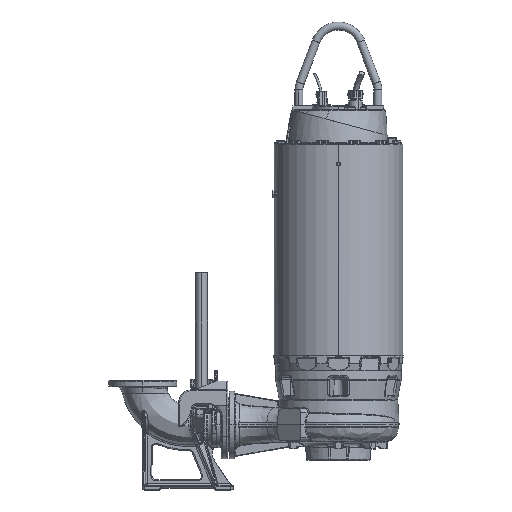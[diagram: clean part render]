
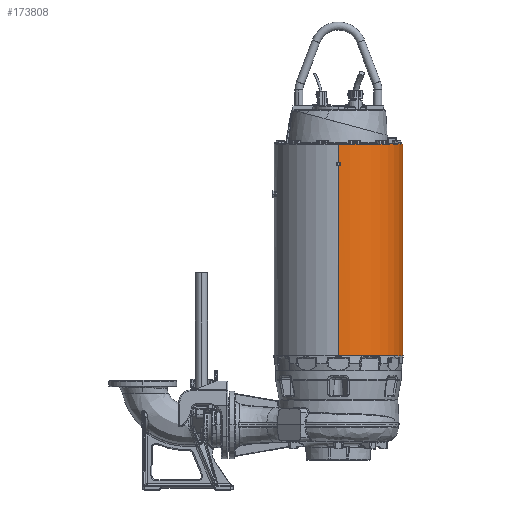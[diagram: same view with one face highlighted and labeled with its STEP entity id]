
A CAD part, top view. The second image highlights one B-rep face of the part: STEP entity #173808.
In plain terms, the highlighted cylindrical face has radius 322 mm (diameter 644 mm), a partial arc.
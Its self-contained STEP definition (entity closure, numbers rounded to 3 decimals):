
#1253 = ORIENTED_EDGE ( 'NONE', *, *, #125993, .F. ) ;
#2137 = ORIENTED_EDGE ( 'NONE', *, *, #202003, .F. ) ;
#5485 = VECTOR ( 'NONE', #193907, 1000. ) ;
#7507 = CARTESIAN_POINT ( 'NONE',  ( 0., 950.97, -322. ) ) ;
#10070 = DIRECTION ( 'NONE',  ( 0., -1., 0. ) ) ;
#11205 = AXIS2_PLACEMENT_3D ( 'NONE', #100670, #123631, #78576 ) ;
#13739 = CARTESIAN_POINT ( 'NONE',  ( 0., 1040., 0. ) ) ;
#16408 = CARTESIAN_POINT ( 'NONE',  ( 9.5, 945.485, 321.86 ) ) ;
#26195 = VERTEX_POINT ( 'NONE', #67177 ) ;
#33398 = LINE ( 'NONE', #98443, #87236 ) ;
#34243 = CARTESIAN_POINT ( 'NONE',  ( 3.167, 930.859, 322. ) ) ;
#36800 = DIRECTION ( 'NONE',  ( 0., 0., -1. ) ) ;
#46841 = VERTEX_POINT ( 'NONE', #76514 ) ;
#48238 = EDGE_LOOP ( 'NONE', ( #113155, #71006, #296876, #230881, #233131, #146392, #149279, #105139, #2137, #1253, #210534, #269708 ) ) ;
#54683 = EDGE_CURVE ( 'NONE', #171141, #175617, #157286, .T. ) ;
#56290 = CARTESIAN_POINT ( 'NONE',  ( 9.5, 1180.349, 321.86 ) ) ;
#58086 = CARTESIAN_POINT ( 'NONE',  ( 9.5, 934.515, 321.86 ) ) ;
#66601 = LINE ( 'NONE', #262035, #5485 ) ;
#67177 = CARTESIAN_POINT ( 'NONE',  ( 9.5, 945.485, -321.86 ) ) ;
#71006 = ORIENTED_EDGE ( 'NONE', *, *, #54683, .T. ) ;
#71241 = CARTESIAN_POINT ( 'NONE',  ( 6.334, 932.687, -321.953 ) ) ;
#71815 = EDGE_CURVE ( 'NONE', #161598, #236829, #268400, .T. ) ;
#72751 = VERTEX_POINT ( 'NONE', #7507 ) ;
#74390 = CARTESIAN_POINT ( 'NONE',  ( 0., 950.97, 322. ) ) ;
#76514 = CARTESIAN_POINT ( 'NONE',  ( 9.5, 934.515, -321.86 ) ) ;
#78235 = CIRCLE ( 'NONE', #245700, 322. ) ;
#78576 = DIRECTION ( 'NONE',  ( 0., 0., -1. ) ) ;
#79448 = CARTESIAN_POINT ( 'NONE',  ( 6.334, 932.687, 321.953 ) ) ;
#80181 = DIRECTION ( 'NONE',  ( 0., -1., 0. ) ) ;
#80588 = CARTESIAN_POINT ( 'NONE',  ( 0., 929.03, 322. ) ) ;
#84417 = CARTESIAN_POINT ( 'NONE',  ( 0., -20., 322. ) ) ;
#87236 = VECTOR ( 'NONE', #10070, 1000. ) ;
#97698 = CIRCLE ( 'NONE', #247858, 322. ) ;
#98443 = CARTESIAN_POINT ( 'NONE',  ( 0., 0., 322. ) ) ;
#99292 = FACE_OUTER_BOUND ( 'NONE', #48238, .T. ) ;
#100670 = CARTESIAN_POINT ( 'NONE',  ( 0., 0., 0. ) ) ;
#105079 = DIRECTION ( 'NONE',  ( 0., -1., 0. ) ) ;
#105139 = ORIENTED_EDGE ( 'NONE', *, *, #229331, .F. ) ;
#105311 = CARTESIAN_POINT ( 'NONE',  ( 0., 950.97, -322. ) ) ;
#105765 = CARTESIAN_POINT ( 'NONE',  ( 9.5, 945.485, 321.86 ) ) ;
#112265 = CARTESIAN_POINT ( 'NONE',  ( 0., 0., 322. ) ) ;
#113155 = ORIENTED_EDGE ( 'NONE', *, *, #271174, .T. ) ;
#114395 = EDGE_CURVE ( 'NONE', #145694, #161598, #289223, .T. ) ;
#117261 = CARTESIAN_POINT ( 'NONE',  ( 0., 929.03, -322. ) ) ;
#118376 = VERTEX_POINT ( 'NONE', #195869 ) ;
#123631 = DIRECTION ( 'NONE',  ( 0., -1., 0. ) ) ;
#125490 = CARTESIAN_POINT ( 'NONE',  ( 9.5, 934.515, 321.86 ) ) ;
#125993 = EDGE_CURVE ( 'NONE', #26195, #46841, #221925, .T. ) ;
#128306 = CARTESIAN_POINT ( 'NONE',  ( 6.334, 947.313, -321.953 ) ) ;
#129755 = CARTESIAN_POINT ( 'NONE',  ( 0., 950.97, 322. ) ) ;
#131441 = CYLINDRICAL_SURFACE ( 'NONE', #11205, 322. ) ;
#144508 = CARTESIAN_POINT ( 'NONE',  ( 0., 0., -322. ) ) ;
#145694 = VERTEX_POINT ( 'NONE', #105765 ) ;
#146392 = ORIENTED_EDGE ( 'NONE', *, *, #270074, .T. ) ;
#149279 = ORIENTED_EDGE ( 'NONE', *, *, #212017, .F. ) ;
#153800 = CARTESIAN_POINT ( 'NONE',  ( 6.334, 947.313, 321.953 ) ) ;
#155430 =( BOUNDED_CURVE ( )  B_SPLINE_CURVE ( 3, ( #129755, #268199, #153800, #16408 ),
 .UNSPECIFIED., .F., .F. ) 
 B_SPLINE_CURVE_WITH_KNOTS ( ( 4, 4 ),
 ( 1.571, 1.6 ),
 .UNSPECIFIED. ) 
 CURVE ( )  GEOMETRIC_REPRESENTATION_ITEM ( )  RATIONAL_B_SPLINE_CURVE ( ( 1., 1., 1., 1. ) ) 
 REPRESENTATION_ITEM ( '' )  );
#157286 = LINE ( 'NONE', #112265, #279394 ) ;
#157600 = CARTESIAN_POINT ( 'NONE',  ( 0., 929.03, -322. ) ) ;
#158933 =( BOUNDED_CURVE ( )  B_SPLINE_CURVE ( 3, ( #162436, #71241, #254751, #117261 ),
 .UNSPECIFIED., .F., .F. ) 
 B_SPLINE_CURVE_WITH_KNOTS ( ( 4, 4 ),
 ( 1.541, 1.571 ),
 .UNSPECIFIED. ) 
 CURVE ( )  GEOMETRIC_REPRESENTATION_ITEM ( )  RATIONAL_B_SPLINE_CURVE ( ( 1., 1., 1., 1. ) ) 
 REPRESENTATION_ITEM ( '' )  );
#159912 = VECTOR ( 'NONE', #193754, 1000. ) ;
#161598 = VERTEX_POINT ( 'NONE', #58086 ) ;
#162436 = CARTESIAN_POINT ( 'NONE',  ( 9.5, 934.515, -321.86 ) ) ;
#163378 = DIRECTION ( 'NONE',  ( 0., -1., 0. ) ) ;
#171141 = VERTEX_POINT ( 'NONE', #213971 ) ;
#173808 = ADVANCED_FACE ( 'NONE', ( #99292 ), #131441, .T. ) ;
#174287 = DIRECTION ( 'NONE',  ( 0., -1., 0. ) ) ;
#175426 =( BOUNDED_CURVE ( )  B_SPLINE_CURVE ( 3, ( #105311, #242725, #128306, #288848 ),
 .UNSPECIFIED., .F., .F. ) 
 B_SPLINE_CURVE_WITH_KNOTS ( ( 4, 4 ),
 ( 1.571, 1.6 ),
 .UNSPECIFIED. ) 
 CURVE ( )  GEOMETRIC_REPRESENTATION_ITEM ( )  RATIONAL_B_SPLINE_CURVE ( ( 1., 1., 1., 1. ) ) 
 REPRESENTATION_ITEM ( '' )  );
#175617 = VERTEX_POINT ( 'NONE', #74390 ) ;
#179542 = VECTOR ( 'NONE', #236901, 1000. ) ;
#188782 = EDGE_CURVE ( 'NONE', #118376, #72751, #66601, .T. ) ;
#193754 = DIRECTION ( 'NONE',  ( 0., -1., 0. ) ) ;
#193907 = DIRECTION ( 'NONE',  ( 0., -1., 0. ) ) ;
#194805 = CARTESIAN_POINT ( 'NONE',  ( 0., 929.03, 322. ) ) ;
#195869 = CARTESIAN_POINT ( 'NONE',  ( 0., 1040., -322. ) ) ;
#202003 = EDGE_CURVE ( 'NONE', #46841, #206600, #158933, .T. ) ;
#206600 = VERTEX_POINT ( 'NONE', #157600 ) ;
#210534 = ORIENTED_EDGE ( 'NONE', *, *, #293034, .F. ) ;
#212017 = EDGE_CURVE ( 'NONE', #249784, #235491, #78235, .T. ) ;
#213971 = CARTESIAN_POINT ( 'NONE',  ( 0., 1040., 322. ) ) ;
#217581 = CARTESIAN_POINT ( 'NONE',  ( 9.5, 1180.349, -321.86 ) ) ;
#221318 = CARTESIAN_POINT ( 'NONE',  ( 0., -20., -322. ) ) ;
#221925 = LINE ( 'NONE', #217581, #275684 ) ;
#229331 = EDGE_CURVE ( 'NONE', #206600, #249784, #240557, .T. ) ;
#230881 = ORIENTED_EDGE ( 'NONE', *, *, #114395, .T. ) ;
#233131 = ORIENTED_EDGE ( 'NONE', *, *, #71815, .T. ) ;
#235491 = VERTEX_POINT ( 'NONE', #84417 ) ;
#236829 = VERTEX_POINT ( 'NONE', #80588 ) ;
#236901 = DIRECTION ( 'NONE',  ( 0., -1., 0. ) ) ;
#240557 = LINE ( 'NONE', #144508, #179542 ) ;
#242502 = CARTESIAN_POINT ( 'NONE',  ( 0., -20., 0. ) ) ;
#242725 = CARTESIAN_POINT ( 'NONE',  ( 3.167, 949.141, -322. ) ) ;
#245700 = AXIS2_PLACEMENT_3D ( 'NONE', #242502, #105079, #265548 ) ;
#247858 = AXIS2_PLACEMENT_3D ( 'NONE', #13739, #174287, #36800 ) ;
#247953 = EDGE_CURVE ( 'NONE', #175617, #145694, #155430, .T. ) ;
#249784 = VERTEX_POINT ( 'NONE', #221318 ) ;
#254751 = CARTESIAN_POINT ( 'NONE',  ( 3.167, 930.859, -322. ) ) ;
#262035 = CARTESIAN_POINT ( 'NONE',  ( 0., 0., -322. ) ) ;
#265548 = DIRECTION ( 'NONE',  ( 0., 0., -1. ) ) ;
#268199 = CARTESIAN_POINT ( 'NONE',  ( 3.167, 949.141, 322. ) ) ;
#268400 =( BOUNDED_CURVE ( )  B_SPLINE_CURVE ( 3, ( #125490, #79448, #34243, #194805 ),
 .UNSPECIFIED., .F., .F. ) 
 B_SPLINE_CURVE_WITH_KNOTS ( ( 4, 4 ),
 ( 1.541, 1.571 ),
 .UNSPECIFIED. ) 
 CURVE ( )  GEOMETRIC_REPRESENTATION_ITEM ( )  RATIONAL_B_SPLINE_CURVE ( ( 1., 1., 1., 1. ) ) 
 REPRESENTATION_ITEM ( '' )  );
#269708 = ORIENTED_EDGE ( 'NONE', *, *, #188782, .F. ) ;
#270074 = EDGE_CURVE ( 'NONE', #236829, #235491, #33398, .T. ) ;
#271174 = EDGE_CURVE ( 'NONE', #118376, #171141, #97698, .T. ) ;
#275684 = VECTOR ( 'NONE', #80181, 1000. ) ;
#279394 = VECTOR ( 'NONE', #163378, 1000. ) ;
#288848 = CARTESIAN_POINT ( 'NONE',  ( 9.5, 945.485, -321.86 ) ) ;
#289223 = LINE ( 'NONE', #56290, #159912 ) ;
#293034 = EDGE_CURVE ( 'NONE', #72751, #26195, #175426, .T. ) ;
#296876 = ORIENTED_EDGE ( 'NONE', *, *, #247953, .T. ) ;
